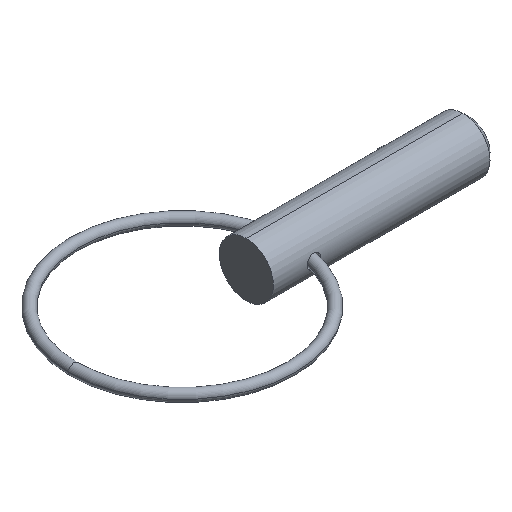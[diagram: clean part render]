
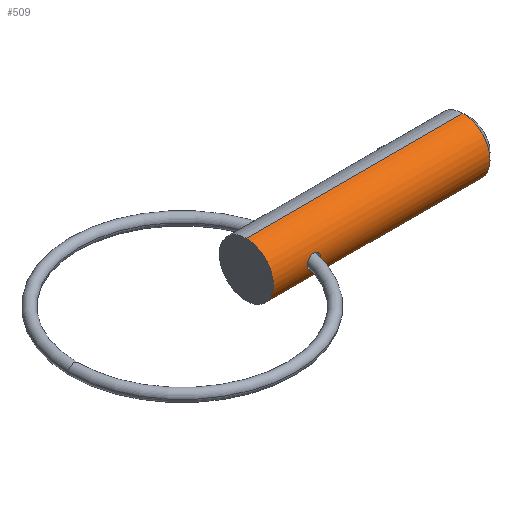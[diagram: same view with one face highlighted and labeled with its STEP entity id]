
A CAD part, isometric view. The second image highlights one B-rep face of the part: STEP entity #509.
In plain terms, the highlighted cylindrical face has radius 3.175 mm (diameter 6.35 mm), a partial arc.
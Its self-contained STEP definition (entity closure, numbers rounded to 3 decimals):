
#12 = DIRECTION ( 'NONE',  ( 1., 0., 0. ) ) ;
#40 = ORIENTED_EDGE ( 'NONE', *, *, #92, .T. ) ;
#52 = CARTESIAN_POINT ( 'NONE',  ( 5.59, -3.175, 0. ) ) ;
#55 = EDGE_CURVE ( 'NONE', #311, #158, #435, .T. ) ;
#65 = VECTOR ( 'NONE', #438, 1000. ) ;
#76 = FACE_OUTER_BOUND ( 'NONE', #361, .T. ) ;
#79 = VERTEX_POINT ( 'NONE', #322 ) ;
#88 = CYLINDRICAL_SURFACE ( 'NONE', #268, 3.175 ) ;
#89 = CARTESIAN_POINT ( 'NONE',  ( 4.359, -3.099, -0.704 ) ) ;
#92 = EDGE_CURVE ( 'NONE', #205, #79, #499, .T. ) ;
#96 = CARTESIAN_POINT ( 'NONE',  ( 5.188, -3.097, -0.702 ) ) ;
#108 = CARTESIAN_POINT ( 'NONE',  ( 5.279, -3.11, -0.644 ) ) ;
#118 = CARTESIAN_POINT ( 'NONE',  ( 0., 0., 0. ) ) ;
#126 = EDGE_CURVE ( 'NONE', #560, #311, #432, .T. ) ;
#144 = CARTESIAN_POINT ( 'NONE',  ( 4.992, -3.078, 0.778 ) ) ;
#155 = CARTESIAN_POINT ( 'NONE',  ( 4.127, -3.138, 0.49 ) ) ;
#156 = CARTESIAN_POINT ( 'NONE',  ( 25.416, 0., 0. ) ) ;
#158 = VERTEX_POINT ( 'NONE', #170 ) ;
#160 = CARTESIAN_POINT ( 'NONE',  ( 3.95, -3.175, 0. ) ) ;
#170 = CARTESIAN_POINT ( 'NONE',  ( 25.416, 0., -3.175 ) ) ;
#172 = ORIENTED_EDGE ( 'NONE', *, *, #799, .T. ) ;
#173 = DIRECTION ( 'NONE',  ( 1., 0., 0. ) ) ;
#205 = VERTEX_POINT ( 'NONE', #52 ) ;
#214 = AXIS2_PLACEMENT_3D ( 'NONE', #156, #389, #582 ) ;
#240 = CARTESIAN_POINT ( 'NONE',  ( 5.504, -3.15, -0.423 ) ) ;
#247 = CARTESIAN_POINT ( 'NONE',  ( 3.95, -3.175, 0. ) ) ;
#260 = CARTESIAN_POINT ( 'NONE',  ( 5.59, -3.175, 0. ) ) ;
#268 = AXIS2_PLACEMENT_3D ( 'NONE', #598, #12, #545 ) ;
#277 = EDGE_CURVE ( 'NONE', #560, #426, #763, .T. ) ;
#289 = CARTESIAN_POINT ( 'NONE',  ( 3.974, -3.169, 0.212 ) ) ;
#293 = CARTESIAN_POINT ( 'NONE',  ( 4.568, -3.075, -0.789 ) ) ;
#311 = VERTEX_POINT ( 'NONE', #742 ) ;
#322 = CARTESIAN_POINT ( 'NONE',  ( 3.95, -3.175, 0. ) ) ;
#361 = EDGE_LOOP ( 'NONE', ( #810, #417, #172, #500 ) ) ;
#363 = CARTESIAN_POINT ( 'NONE',  ( 0., 0., 3.175 ) ) ;
#367 = VECTOR ( 'NONE', #173, 1000. ) ;
#389 = DIRECTION ( 'NONE',  ( 1., 0., 0. ) ) ;
#405 = AXIS2_PLACEMENT_3D ( 'NONE', #118, #738, #616 ) ;
#415 = CARTESIAN_POINT ( 'NONE',  ( 5.189, -3.097, 0.702 ) ) ;
#417 = ORIENTED_EDGE ( 'NONE', *, *, #277, .T. ) ;
#420 = CARTESIAN_POINT ( 'NONE',  ( 4.886, -3.074, 0.796 ) ) ;
#426 = VERTEX_POINT ( 'NONE', #762 ) ;
#432 = LINE ( 'NONE', #363, #65 ) ;
#435 = CIRCLE ( 'NONE', #214, 3.175 ) ;
#438 = DIRECTION ( 'NONE',  ( 1., 0., 0. ) ) ;
#465 = CARTESIAN_POINT ( 'NONE',  ( 5.569, -3.169, 0.212 ) ) ;
#468 = CARTESIAN_POINT ( 'NONE',  ( 5.59, -3.175, 0.106 ) ) ;
#473 = FACE_BOUND ( 'NONE', #617, .T. ) ;
#499 = B_SPLINE_CURVE_WITH_KNOTS ( 'NONE', 3,
 ( #260, #821, #240, #108, #96, #685, #556, #293, #89, #801, #694, #751, #630, #247 ),
 .UNSPECIFIED., .F., .F.,
 ( 4, 2, 2, 2, 2, 2, 4 ),
 ( 0.003, 0.003, 0.004, 0.004, 0.005, 0.005, 0.005 ),
 .UNSPECIFIED. ) ;
#500 = ORIENTED_EDGE ( 'NONE', *, *, #55, .F. ) ;
#509 = ADVANCED_FACE ( 'NONE', ( #76, #473 ), #88, .T. ) ;
#545 = DIRECTION ( 'NONE',  ( 0., 0., -1. ) ) ;
#547 = ORIENTED_EDGE ( 'NONE', *, *, #568, .T. ) ;
#556 = CARTESIAN_POINT ( 'NONE',  ( 4.885, -3.074, -0.796 ) ) ;
#560 = VERTEX_POINT ( 'NONE', #722 ) ;
#568 = EDGE_CURVE ( 'NONE', #79, #205, #724, .T. ) ;
#582 = DIRECTION ( 'NONE',  ( 0., 0., -1. ) ) ;
#587 = CARTESIAN_POINT ( 'NONE',  ( 4.567, -3.075, 0.789 ) ) ;
#598 = CARTESIAN_POINT ( 'NONE',  ( 0., 0., 0. ) ) ;
#602 = CARTESIAN_POINT ( 'NONE',  ( 4.36, -3.099, 0.705 ) ) ;
#616 = DIRECTION ( 'NONE',  ( 0., 0., -1. ) ) ;
#617 = EDGE_LOOP ( 'NONE', ( #547, #40 ) ) ;
#630 = CARTESIAN_POINT ( 'NONE',  ( 3.95, -3.175, -0.106 ) ) ;
#655 = CARTESIAN_POINT ( 'NONE',  ( 5.429, -3.137, 0.497 ) ) ;
#670 = CARTESIAN_POINT ( 'NONE',  ( 5.279, -3.11, 0.644 ) ) ;
#673 = CARTESIAN_POINT ( 'NONE',  ( 0., 0., -3.175 ) ) ;
#685 = CARTESIAN_POINT ( 'NONE',  ( 4.992, -3.078, -0.778 ) ) ;
#694 = CARTESIAN_POINT ( 'NONE',  ( 4.064, -3.151, -0.404 ) ) ;
#722 = CARTESIAN_POINT ( 'NONE',  ( 0., 0., 3.175 ) ) ;
#724 = B_SPLINE_CURVE_WITH_KNOTS ( 'NONE', 3,
 ( #160, #787, #289, #732, #155, #602, #587, #420, #144, #415, #670, #655, #778, #465, #468, #797 ),
 .UNSPECIFIED., .F., .F.,
 ( 4, 2, 2, 2, 2, 2, 2, 4 ),
 ( 0., 0.001, 0.001, 0.002, 0.002, 0.002, 0.003, 0.003 ),
 .UNSPECIFIED. ) ;
#732 = CARTESIAN_POINT ( 'NONE',  ( 4.063, -3.151, 0.403 ) ) ;
#738 = DIRECTION ( 'NONE',  ( 1., 0., 0. ) ) ;
#742 = CARTESIAN_POINT ( 'NONE',  ( 25.416, 0., 3.175 ) ) ;
#746 = LINE ( 'NONE', #673, #367 ) ;
#751 = CARTESIAN_POINT ( 'NONE',  ( 3.974, -3.169, -0.212 ) ) ;
#762 = CARTESIAN_POINT ( 'NONE',  ( 0., 0., -3.175 ) ) ;
#763 = CIRCLE ( 'NONE', #405, 3.175 ) ;
#778 = CARTESIAN_POINT ( 'NONE',  ( 5.489, -3.15, 0.407 ) ) ;
#787 = CARTESIAN_POINT ( 'NONE',  ( 3.95, -3.175, 0.106 ) ) ;
#797 = CARTESIAN_POINT ( 'NONE',  ( 5.59, -3.175, 0. ) ) ;
#799 = EDGE_CURVE ( 'NONE', #426, #158, #746, .T. ) ;
#801 = CARTESIAN_POINT ( 'NONE',  ( 4.127, -3.138, -0.49 ) ) ;
#810 = ORIENTED_EDGE ( 'NONE', *, *, #126, .F. ) ;
#821 = CARTESIAN_POINT ( 'NONE',  ( 5.59, -3.175, -0.212 ) ) ;
